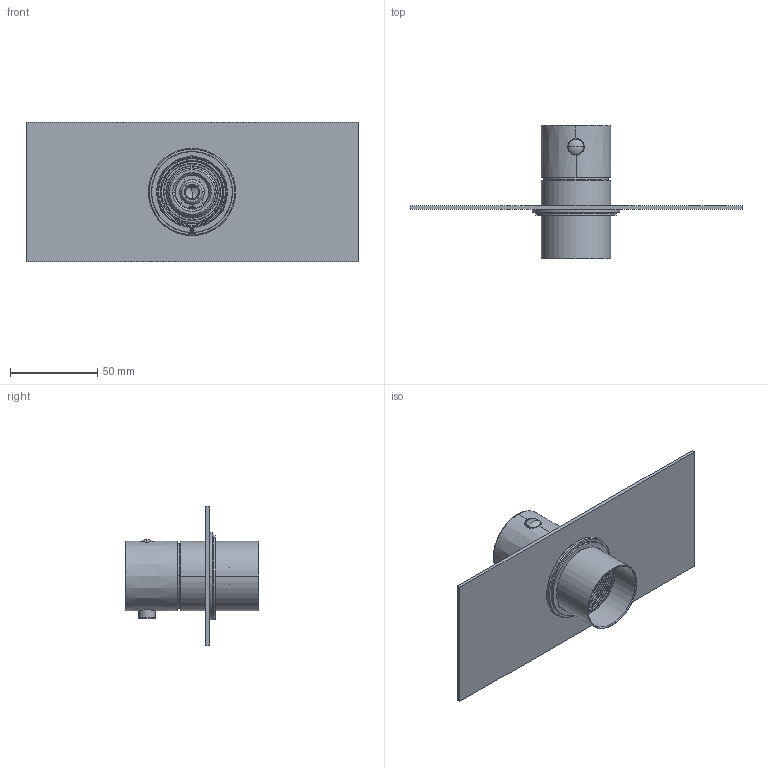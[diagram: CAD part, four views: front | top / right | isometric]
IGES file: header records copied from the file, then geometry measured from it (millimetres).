
Start section:  PTC IGES file: 3d_sw0001.igs
Global section: file name: 3d_sw0001.igs; native system: Creo Parametric by PTC Inc.; preprocessor: 2022014; author: volponeff; organization: Unknown; date: 20240327.144929; units: millimetre
Bounding box: 190 x 76.6 x 80 mm (x, y, z)
Surface area: 61316.9 mm2 (no closed solid volume)
Topology: 0 solids, 0 shells, 1292 faces, 6822 edges, 6817 vertices
Faces by surface type: bspline 875, revolution 417
